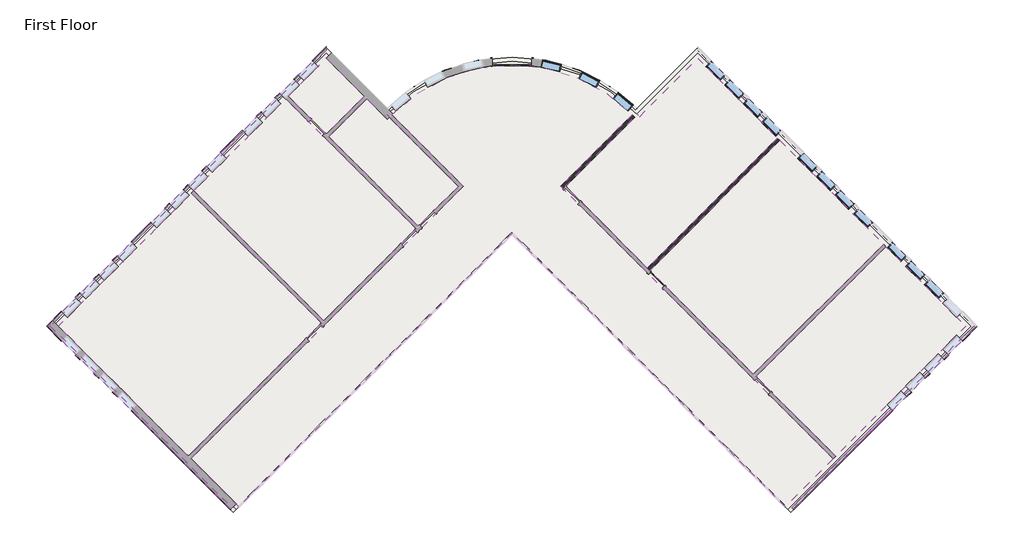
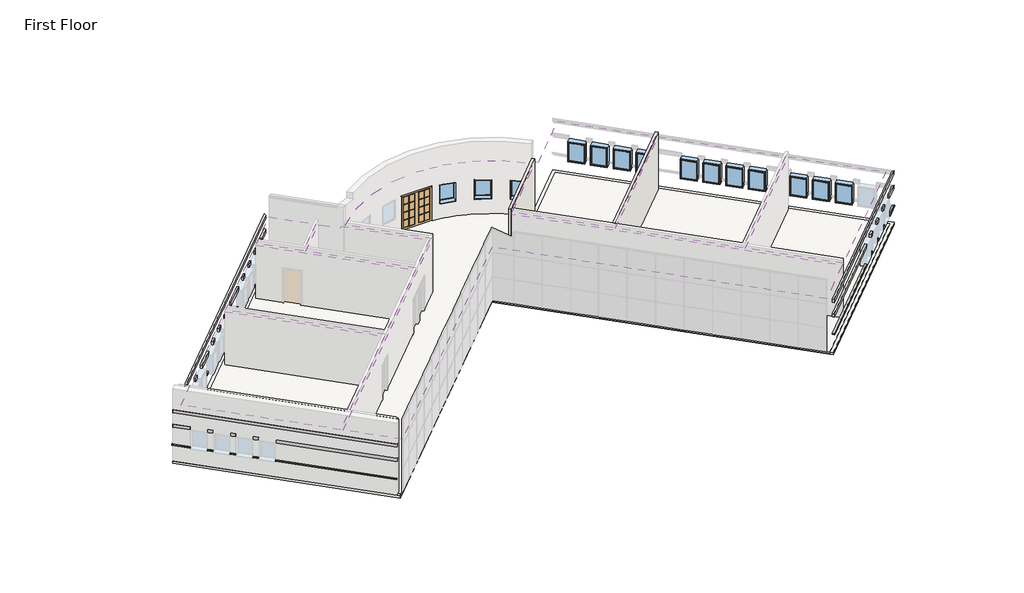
# One storey, part 6 of 7: 14 windows, 9 proxies, 8 coverings, 2 doors, 2 slabs, 2 walls.
"""IFC4 building model written with IfcOpenShell, lengths in millimetres."""

from ifc_helpers import new_model, si_unit, point, frame, frame_2d, origin, origin_with_axes, place, context, project, spatial, polyline, circle_curve, trimmed, segment, composite_curve, outline, extrude, faceted_brep, transform, mapped, element, save
from ifc_brep_helpers import plane_surface, cylinder_surface, advanced_brep
from components import door_0a477ef8, door_5f5b55da, window_15c49d37, window_0e2fc6ce

model = new_model("IFC4")

# Units and contexts
model_context = context("Model", 3, world=origin())
ifc_project = project(units=[si_unit("LENGTHUNIT", "METRE", prefix="MILLI")], contexts=[model_context])

# Site, building, storey
site = spatial("IfcSite", under=ifc_project)
building = spatial("IfcBuilding", under=site)
storey = spatial("IfcBuildingStorey", under=building, Name="First Floor", Elevation=0.0)

# Proxies
placement = place(None, origin())
element("IfcBuildingElementProxy", 1, Name="Wall Sweeps", at=placement, inside=storey, context=model_context, shape_type="Brep", body=[
    faceted_brep([(18554.3726125, -1357.9895101, 1085.85), (18684.5863263, -1357.9895101, 1085.85), (18733.9777349, -1357.9895101, 1041.4), (18733.9777349, -1357.9895101, 1016.0), (18554.3726125, -1357.9895101, 1016.0), (17956.0630484, -1956.2990742, 1085.85), (17956.0630484, -1956.2990742, 1016.0), (18021.1699053, -2021.405931, 1016.0), (18045.8656096, -2046.1016354, 1016.0), (18045.8656096, -2046.1016354, 1041.4), (18021.1699053, -2021.405931, 1085.85), (18370.277362, -1542.0847606, 1085.85), (18370.277362, -1542.0847606, 1016.0)], [[[0, 1, 2, 3, 4]], [[5, 6, 7, 8, 9, 10]], [[1, 0, 11, 5, 10]], [[2, 1, 10, 9]], [[3, 2, 9, 8]], [[4, 3, 8, 7, 6, 12]], [[0, 4, 12, 6, 5, 11]]]),
    faceted_brep([(17309.4846077, -2602.8775149, 1085.85), (17374.5914646, -2667.9843718, 1085.85), (17399.2871689, -2692.6800761, 1041.4), (17399.2871689, -2692.6800761, 1016.0), (17374.5914646, -2667.9843718, 1016.0), (17309.4846077, -2602.8775149, 1016.0), (17093.9584608, -2818.4036618, 1085.85), (17093.9584608, -2818.4036618, 1016.0), (17159.0653177, -2883.5105187, 1016.0), (17183.761022, -2908.206223, 1016.0), (17183.761022, -2908.206223, 1041.4), (17159.0653177, -2883.5105187, 1085.85)], [[[0, 1, 2, 3, 4, 5]], [[6, 7, 8, 9, 10, 11]], [[1, 0, 6, 11]], [[2, 1, 11, 10]], [[3, 2, 10, 9]], [[5, 4, 3, 9, 8, 7]], [[0, 5, 7, 6]]]),
    faceted_brep([(16447.3800201, -3464.9821025, 1085.85), (16512.486877, -3530.0889594, 1085.85), (16537.1825813, -3554.7846637, 1041.4), (16537.1825813, -3554.7846637, 1016.0), (16512.486877, -3530.0889594, 1016.0), (16447.3800201, -3464.9821025, 1016.0), (16231.8538732, -3680.5082494, 1085.85), (16231.8538732, -3680.5082494, 1016.0), (16296.9607301, -3745.6151063, 1016.0), (16321.6564344, -3770.3108106, 1016.0), (16321.6564344, -3770.3108106, 1041.4), (16296.9607301, -3745.6151063, 1085.85)], [[[0, 1, 2, 3, 4, 5]], [[6, 7, 8, 9, 10, 11]], [[1, 0, 6, 11]], [[2, 1, 11, 10]], [[3, 2, 10, 9]], [[5, 4, 3, 9, 8, 7]], [[0, 5, 7, 6]]]),
    faceted_brep([(15585.2754325, -4327.0866901, 1085.85), (15650.3822894, -4392.193547, 1085.85), (15675.0779937, -4416.8892513, 1041.4), (15675.0779937, -4416.8892513, 1016.0), (15650.3822894, -4392.193547, 1016.0), (15585.2754325, -4327.0866901, 1016.0), (15369.7492856, -4542.612837, 1085.85), (15369.7492856, -4542.612837, 1016.0), (15434.8561424, -4607.7196939, 1016.0), (15459.5518468, -4632.4153982, 1016.0), (15459.5518468, -4632.4153982, 1041.4), (15434.8561424, -4607.7196939, 1085.85)], [[[0, 1, 2, 3, 4, 5]], [[6, 7, 8, 9, 10, 11]], [[1, 0, 6, 11]], [[2, 1, 11, 10]], [[3, 2, 10, 9]], [[5, 4, 3, 9, 8, 7]], [[0, 5, 7, 6]]]),
    faceted_brep([(14723.1708449, -5189.1912777, 1085.85), (14788.2777017, -5254.2981346, 1085.85), (14812.9734061, -5278.993839, 1041.4), (14812.9734061, -5278.993839, 1016.0), (14788.2777017, -5254.2981346, 1016.0), (14723.1708449, -5189.1912777, 1016.0), (10123.0346468, -9789.3274758, 1085.85), (10123.0346468, -9789.3274758, 1016.0), (10188.1415037, -9854.4343326, 1016.0), (10212.837208, -9879.130037, 1016.0), (10212.837208, -9879.130037, 1041.4), (10188.1415037, -9854.4343326, 1085.85)], [[[0, 1, 2, 3, 4, 5]], [[6, 7, 8, 9, 10, 11]], [[1, 0, 6, 11]], [[2, 1, 11, 10]], [[3, 2, 10, 9]], [[5, 4, 3, 9, 8, 7]], [[0, 5, 7, 6]]]),
])
element("IfcBuildingElementProxy", 2, Name="Wall Sweeps", at=placement, inside=storey, context=model_context, shape_type="Brep", body=[
    faceted_brep([(18684.5863263, -1357.9895101, 2336.8), (18684.5863263, -1357.9895101, 2133.6), (18554.3726125, -1357.9895101, 2133.6), (18554.3726125, -1357.9895101, 2336.8), (18021.1699053, -2021.405931, 2336.8), (17956.0630484, -1956.2990742, 2336.8), (17956.0630484, -1956.2990742, 2133.6), (18021.1699053, -2021.405931, 2133.6), (18435.3842189, -1607.1916175, 2336.8), (18435.3842189, -1607.1916175, 2133.6), (18370.277362, -1542.0847606, 2133.6), (18370.277362, -1542.0847606, 2336.8)], [[[0, 1, 2, 3]], [[4, 5, 6, 7]], [[1, 0, 8, 4, 7, 9]], [[2, 1, 9, 7, 6, 10]], [[3, 2, 10, 6, 5, 11]], [[0, 3, 11, 5, 4, 8]]]),
    faceted_brep([(17374.5914646, -2667.9843718, 2336.8), (17374.5914646, -2667.9843718, 2133.6), (17309.4846077, -2602.8775149, 2133.6), (17309.4846077, -2602.8775149, 2336.8), (17159.0653177, -2883.5105187, 2336.8), (17093.9584608, -2818.4036618, 2336.8), (17093.9584608, -2818.4036618, 2133.6), (17159.0653177, -2883.5105187, 2133.6)], [[[0, 1, 2, 3]], [[4, 5, 6, 7]], [[1, 0, 4, 7]], [[2, 1, 7, 6]], [[3, 2, 6, 5]], [[0, 3, 5, 4]]]),
    faceted_brep([(16512.486877, -3530.0889594, 2336.8), (16512.486877, -3530.0889594, 2133.6), (16447.3800201, -3464.9821025, 2133.6), (16447.3800201, -3464.9821025, 2336.8), (16296.9607301, -3745.6151063, 2336.8), (16231.8538732, -3680.5082494, 2336.8), (16231.8538732, -3680.5082494, 2133.6), (16296.9607301, -3745.6151063, 2133.6)], [[[0, 1, 2, 3]], [[4, 5, 6, 7]], [[1, 0, 4, 7]], [[2, 1, 7, 6]], [[3, 2, 6, 5]], [[0, 3, 5, 4]]]),
    faceted_brep([(15650.3822894, -4392.193547, 2336.8), (15650.3822894, -4392.193547, 2133.6), (15585.2754325, -4327.0866901, 2133.6), (15585.2754325, -4327.0866901, 2336.8), (15434.8561424, -4607.7196939, 2336.8), (15369.7492856, -4542.612837, 2336.8), (15369.7492856, -4542.612837, 2133.6), (15434.8561424, -4607.7196939, 2133.6)], [[[0, 1, 2, 3]], [[4, 5, 6, 7]], [[1, 0, 4, 7]], [[2, 1, 7, 6]], [[3, 2, 6, 5]], [[0, 3, 5, 4]]]),
    faceted_brep([(14788.2777017, -5254.2981346, 2336.8), (14788.2777017, -5254.2981346, 2133.6), (14723.1708449, -5189.1912777, 2133.6), (14723.1708449, -5189.1912777, 2336.8), (10188.1415037, -9854.4343326, 2336.8), (10123.0346468, -9789.3274758, 2336.8), (10123.0346468, -9789.3274758, 2133.6), (10188.1415037, -9854.4343326, 2133.6)], [[[0, 1, 2, 3]], [[4, 5, 6, 7]], [[1, 0, 4, 7]], [[2, 1, 7, 6]], [[3, 2, 6, 5]], [[0, 3, 5, 4]]]),
])
element("IfcBuildingElementProxy", 3, Name="Wall Sweeps", at=placement, inside=storey, context=model_context, shape_type="Brep", body=[
    faceted_brep([(18684.5863263, -1357.9895101, 3251.2), (18684.5863263, -1357.9895101, 3048.0), (18554.3726125, -1357.9895101, 3048.0), (18554.3726125, -1357.9895101, 3251.2), (10188.1415037, -9854.4343326, 3251.2), (10123.0346468, -9789.3274758, 3251.2), (10123.0346468, -9789.3274758, 3048.0), (10188.1415037, -9854.4343326, 3048.0), (18435.3842189, -1607.1916175, 3251.2), (18435.3842189, -1607.1916175, 3048.0), (18370.277362, -1542.0847606, 3048.0), (18370.277362, -1542.0847606, 3251.2)], [[[0, 1, 2, 3]], [[4, 5, 6, 7]], [[1, 0, 8, 4, 7, 9]], [[2, 1, 9, 7, 6, 10]], [[3, 2, 10, 6, 5, 11]], [[0, 3, 11, 5, 4, 8]]]),
])
element("IfcBuildingElementProxy", 4, Name="Wall Sweeps", at=placement, inside=storey, context=model_context, shape_type="Brep", body=[
    faceted_brep([(-15859.0913754, -9789.3274758, 1085.85), (-15924.1982323, -9854.4343326, 1085.85), (-15948.8939367, -9879.130037, 1041.4), (-15948.8939367, -9879.130037, 1016.0), (-15924.1982323, -9854.4343326, 1016.0), (-15859.0913754, -9789.3274758, 1016.0), (-20459.2275735, -5189.1912777, 1085.85), (-20459.2275735, -5189.1912777, 1016.0), (-20524.3344303, -5254.2981346, 1016.0), (-20549.0301347, -5278.993839, 1016.0), (-20549.0301347, -5278.993839, 1041.4), (-20524.3344303, -5254.2981346, 1085.85)], [[[0, 1, 2, 3, 4, 5]], [[6, 7, 8, 9, 10, 11]], [[1, 0, 6, 11]], [[2, 1, 11, 10]], [[3, 2, 10, 9]], [[5, 4, 3, 9, 8, 7]], [[0, 5, 7, 6]]]),
    faceted_brep([(-21105.8060142, -4542.612837, 1085.85), (-21170.9128711, -4607.7196939, 1085.85), (-21195.6085754, -4632.4153982, 1041.4), (-21195.6085754, -4632.4153982, 1016.0), (-21170.9128711, -4607.7196939, 1016.0), (-21105.8060142, -4542.612837, 1016.0), (-21321.3321611, -4327.0866901, 1085.85), (-21321.3321611, -4327.0866901, 1016.0), (-21386.439018, -4392.193547, 1016.0), (-21411.1347223, -4416.8892513, 1016.0), (-21411.1347223, -4416.8892513, 1041.4), (-21386.439018, -4392.193547, 1085.85)], [[[0, 1, 2, 3, 4, 5]], [[6, 7, 8, 9, 10, 11]], [[1, 0, 6, 11]], [[2, 1, 11, 10]], [[3, 2, 10, 9]], [[5, 4, 3, 9, 8, 7]], [[0, 5, 7, 6]]]),
    faceted_brep([(-21967.9106018, -3680.5082494, 1085.85), (-22033.0174587, -3745.6151063, 1085.85), (-22057.713163, -3770.3108106, 1041.4), (-22057.713163, -3770.3108106, 1016.0), (-22033.0174587, -3745.6151063, 1016.0), (-21967.9106018, -3680.5082494, 1016.0), (-22183.4367487, -3464.9821025, 1085.85), (-22183.4367487, -3464.9821025, 1016.0), (-22248.5436056, -3530.0889594, 1016.0), (-22273.2393099, -3554.7846637, 1016.0), (-22273.2393099, -3554.7846637, 1041.4), (-22248.5436056, -3530.0889594, 1085.85)], [[[0, 1, 2, 3, 4, 5]], [[6, 7, 8, 9, 10, 11]], [[1, 0, 6, 11]], [[2, 1, 11, 10]], [[3, 2, 10, 9]], [[5, 4, 3, 9, 8, 7]], [[0, 5, 7, 6]]]),
    faceted_brep([(-22830.0151894, -2818.4036618, 1085.85), (-22895.1220463, -2883.5105187, 1085.85), (-22919.8177506, -2908.206223, 1041.4), (-22919.8177506, -2908.206223, 1016.0), (-22895.1220463, -2883.5105187, 1016.0), (-22830.0151894, -2818.4036618, 1016.0), (-23045.5413363, -2602.8775149, 1085.85), (-23045.5413363, -2602.8775149, 1016.0), (-23110.6481932, -2667.9843718, 1016.0), (-23135.3438975, -2692.6800761, 1016.0), (-23135.3438975, -2692.6800761, 1041.4), (-23110.6481932, -2667.9843718, 1085.85)], [[[0, 1, 2, 3, 4, 5]], [[6, 7, 8, 9, 10, 11]], [[1, 0, 6, 11]], [[2, 1, 11, 10]], [[3, 2, 10, 9]], [[5, 4, 3, 9, 8, 7]], [[0, 5, 7, 6]]]),
    faceted_brep([(-23692.119777, -1956.2990742, 1085.85), (-23757.2266339, -2021.405931, 1085.85), (-23781.9223383, -2046.1016354, 1041.4), (-23781.9223383, -2046.1016354, 1016.0), (-23757.2266339, -2021.405931, 1016.0), (-23692.119777, -1956.2990742, 1016.0), (-24290.4293411, -1357.9895101, 1085.85), (-24290.4293411, -1357.9895101, 1016.0), (-24470.0344635, -1357.9895101, 1016.0), (-24470.0344635, -1357.9895101, 1041.4), (-24420.6430549, -1357.9895101, 1085.85)], [[[0, 1, 2, 3, 4, 5]], [[6, 7, 8, 9, 10]], [[1, 0, 6, 10]], [[2, 1, 10, 9]], [[3, 2, 9, 8]], [[5, 4, 3, 8, 7]], [[0, 5, 7, 6]]]),
])
element("IfcBuildingElementProxy", 5, Name="Wall Sweeps", at=placement, inside=storey, context=model_context, shape_type="SweptSolid", body=[
    extrude(outline(polyline([(-15859.0913754, -9789.3274758), (-15924.1982323, -9854.4343326), (-20524.3344303, -5254.2981346), (-20459.2275735, -5189.1912777), (-15859.0913754, -9789.3274758)])), frame((0.0, 0.0, 2133.6), z_axis=(0.0, 0.0, 1.0), x_axis=(1.0, 0.0, 0.0)), (0.0, 0.0, 1.0), 203.2),
    extrude(outline(polyline([(-21105.8060142, -4542.612837), (-21170.9128711, -4607.7196939), (-21386.439018, -4392.193547), (-21321.3321611, -4327.0866901), (-21105.8060142, -4542.612837)])), frame((0.0, 0.0, 2133.6), z_axis=(0.0, 0.0, 1.0), x_axis=(1.0, 0.0, 0.0)), (0.0, 0.0, 1.0), 203.2),
    extrude(outline(polyline([(-21967.9106018, -3680.5082494), (-22033.0174587, -3745.6151063), (-22248.5436056, -3530.0889594), (-22183.4367487, -3464.9821025), (-21967.9106018, -3680.5082494)])), frame((0.0, 0.0, 2133.6), z_axis=(0.0, 0.0, 1.0), x_axis=(1.0, 0.0, 0.0)), (0.0, 0.0, 1.0), 203.2),
    extrude(outline(polyline([(-22830.0151894, -2818.4036618), (-22895.1220463, -2883.5105187), (-23110.6481932, -2667.9843718), (-23045.5413363, -2602.8775149), (-22830.0151894, -2818.4036618)])), frame((0.0, 0.0, 2133.6), z_axis=(0.0, 0.0, 1.0), x_axis=(1.0, 0.0, 0.0)), (0.0, 0.0, 1.0), 203.2),
    extrude(outline(polyline([(-23692.119777, -1956.2990742), (-23757.2266339, -2021.405931), (-24420.6430549, -1357.9895101), (-24290.4293411, -1357.9895101), (-23692.119777, -1956.2990742)])), frame((0.0, 0.0, 2133.6), z_axis=(0.0, 0.0, 1.0), x_axis=(1.0, 0.0, 0.0)), (0.0, 0.0, 1.0), 203.2),
])
element("IfcBuildingElementProxy", 6, Name="Wall Sweeps", at=placement, inside=storey, context=model_context, shape_type="SweptSolid", body=[
    extrude(outline(polyline([(-15859.0913754, -9789.3274758), (-15924.1982323, -9854.4343326), (-24420.6430549, -1357.9895101), (-24290.4293411, -1357.9895101), (-15859.0913754, -9789.3274758)])), frame((0.0, 0.0, 3048.0), z_axis=(0.0, 0.0, 1.0), x_axis=(1.0, 0.0, 0.0)), (0.0, 0.0, 1.0), 203.2),
])
element("IfcBuildingElementProxy", 7, Name="Wall Sweeps", at=placement, inside=storey, context=model_context, shape_type="Brep", body=[
    faceted_brep([(-24290.4293411, -1357.9895101, 1085.85), (-24420.6430549, -1357.9895101, 1085.85), (-24470.0344635, -1357.9895101, 1041.4), (-24470.0344635, -1357.9895101, 1016.0), (-24290.4293411, -1357.9895101, 1016.0), (-23692.119777, -759.679946, 1085.85), (-23692.119777, -759.679946, 1016.0), (-23757.2266339, -694.5730891, 1016.0), (-23781.9223383, -669.8773848, 1016.0), (-23781.9223383, -669.8773848, 1041.4), (-23757.2266339, -694.5730891, 1085.85), (-24106.3340906, -1173.8942596, 1085.85), (-24106.3340906, -1173.8942596, 1016.0)], [[[0, 1, 2, 3, 4]], [[5, 6, 7, 8, 9, 10]], [[1, 0, 11, 5, 10]], [[2, 1, 10, 9]], [[3, 2, 9, 8]], [[4, 3, 8, 7, 6, 12]], [[0, 4, 12, 6, 5, 11]]]),
    faceted_brep([(-23045.5413363, -113.1015053, 1085.85), (-23110.6481932, -47.9946484, 1085.85), (-23135.3438975, -23.2989441, 1041.4), (-23135.3438975, -23.2989441, 1016.0), (-23110.6481932, -47.9946484, 1016.0), (-23045.5413363, -113.1015053, 1016.0), (-22830.0151894, 102.4246416, 1085.85), (-22830.0151894, 102.4246416, 1016.0), (-22895.1220463, 167.5314985, 1016.0), (-22919.8177506, 192.2272028, 1016.0), (-22919.8177506, 192.2272028, 1041.4), (-22895.1220463, 167.5314985, 1085.85)], [[[0, 1, 2, 3, 4, 5]], [[6, 7, 8, 9, 10, 11]], [[1, 0, 6, 11]], [[2, 1, 11, 10]], [[3, 2, 10, 9]], [[5, 4, 3, 9, 8, 7]], [[0, 5, 7, 6]]]),
    faceted_brep([(-22183.4367487, 749.0030823, 1085.85), (-22248.5436056, 814.1099392, 1085.85), (-22273.2393099, 838.8056435, 1041.4), (-22273.2393099, 838.8056435, 1016.0), (-22248.5436056, 814.1099392, 1016.0), (-22183.4367487, 749.0030823, 1016.0), (-21967.9106018, 964.5292292, 1085.85), (-21967.9106018, 964.5292292, 1016.0), (-22033.0174587, 1029.6360861, 1016.0), (-22057.713163, 1054.3317904, 1016.0), (-22057.713163, 1054.3317904, 1041.4), (-22033.0174587, 1029.6360861, 1085.85)], [[[0, 1, 2, 3, 4, 5]], [[6, 7, 8, 9, 10, 11]], [[1, 0, 6, 11]], [[2, 1, 11, 10]], [[3, 2, 10, 9]], [[5, 4, 3, 9, 8, 7]], [[0, 5, 7, 6]]]),
    faceted_brep([(-21321.3321611, 1611.1076699, 1085.85), (-21386.439018, 1676.2145268, 1085.85), (-21411.1347223, 1700.9102311, 1041.4), (-21411.1347223, 1700.9102311, 1016.0), (-21386.439018, 1676.2145268, 1016.0), (-21321.3321611, 1611.1076699, 1016.0), (-21105.8060142, 1826.6338168, 1085.85), (-21105.8060142, 1826.6338168, 1016.0), (-21170.9128711, 1891.7406737, 1016.0), (-21195.6085754, 1916.4363781, 1016.0), (-21195.6085754, 1916.4363781, 1041.4), (-21170.9128711, 1891.7406737, 1085.85)], [[[0, 1, 2, 3, 4, 5]], [[6, 7, 8, 9, 10, 11]], [[1, 0, 6, 11]], [[2, 1, 11, 10]], [[3, 2, 10, 9]], [[5, 4, 3, 9, 8, 7]], [[0, 5, 7, 6]]]),
    faceted_brep([(-20459.2275735, 2473.2122576, 1085.85), (-20524.3344303, 2538.3191144, 1085.85), (-20549.0301347, 2563.0148188, 1041.4), (-20549.0301347, 2563.0148188, 1016.0), (-20524.3344303, 2538.3191144, 1016.0), (-20459.2275735, 2473.2122576, 1016.0), (-19543.7128733, 3388.7269578, 1085.85), (-19543.7128733, 3388.7269578, 1016.0), (-19608.8197301, 3453.8338146, 1016.0), (-19633.5154345, 3478.529519, 1016.0), (-19633.5154345, 3478.529519, 1041.4), (-19608.8197301, 3453.8338146, 1085.85)], [[[0, 1, 2, 3, 4, 5]], [[6, 7, 8, 9, 10, 11]], [[1, 0, 6, 11]], [[2, 1, 11, 10]], [[3, 2, 10, 9]], [[5, 4, 3, 9, 8, 7]], [[0, 5, 7, 6]]]),
    faceted_brep([(-18897.1344326, 4035.3053985, 1085.85), (-18962.2412894, 4100.4122553, 1085.85), (-18986.9369938, 4125.1079597, 1041.4), (-18986.9369938, 4125.1079597, 1016.0), (-18962.2412894, 4100.4122553, 1016.0), (-18897.1344326, 4035.3053985, 1016.0), (-18681.6082856, 4250.8315454, 1085.85), (-18681.6082856, 4250.8315454, 1016.0), (-18746.7151425, 4315.9384023, 1016.0), (-18771.4108469, 4340.6341066, 1016.0), (-18771.4108469, 4340.6341066, 1041.4), (-18746.7151425, 4315.9384023, 1085.85)], [[[0, 1, 2, 3, 4, 5]], [[6, 7, 8, 9, 10, 11]], [[1, 0, 6, 11]], [[2, 1, 11, 10]], [[3, 2, 10, 9]], [[5, 4, 3, 9, 8, 7]], [[0, 5, 7, 6]]]),
    faceted_brep([(-18035.0298449, 4897.4099861, 1085.85), (-18100.1367018, 4962.516843, 1085.85), (-18124.8324061, 4987.2125473, 1041.4), (-18124.8324061, 4987.2125473, 1016.0), (-18100.1367018, 4962.516843, 1016.0), (-18035.0298449, 4897.4099861, 1016.0), (-17819.503698, 5112.936133, 1085.85), (-17819.503698, 5112.936133, 1016.0), (-17884.6105549, 5178.0429899, 1016.0), (-17909.3062592, 5202.7386942, 1016.0), (-17909.3062592, 5202.7386942, 1041.4), (-17884.6105549, 5178.0429899, 1085.85)], [[[0, 1, 2, 3, 4, 5]], [[6, 7, 8, 9, 10, 11]], [[1, 0, 6, 11]], [[2, 1, 11, 10]], [[3, 2, 10, 9]], [[5, 4, 3, 9, 8, 7]], [[0, 5, 7, 6]]]),
    faceted_brep([(-17172.9252573, 5759.5145737, 1085.85), (-17238.0321142, 5824.6214306, 1085.85), (-17262.7278185, 5849.3171349, 1041.4), (-17262.7278185, 5849.3171349, 1016.0), (-17238.0321142, 5824.6214306, 1016.0), (-17172.9252573, 5759.5145737, 1016.0), (-16957.3991104, 5975.0407206, 1085.85), (-16957.3991104, 5975.0407206, 1016.0), (-17022.5059673, 6040.1475775, 1016.0), (-17047.2016716, 6064.8432818, 1016.0), (-17047.2016716, 6064.8432818, 1041.4), (-17022.5059673, 6040.1475775, 1085.85)], [[[0, 1, 2, 3, 4, 5]], [[6, 7, 8, 9, 10, 11]], [[1, 0, 6, 11]], [[2, 1, 11, 10]], [[3, 2, 10, 9]], [[5, 4, 3, 9, 8, 7]], [[0, 5, 7, 6]]]),
    faceted_brep([(-16310.8206697, 6621.6191613, 1085.85), (-16375.9275266, 6686.7260182, 1085.85), (-16400.6232309, 6711.4217225, 1041.4), (-16400.6232309, 6711.4217225, 1016.0), (-16375.9275266, 6686.7260182, 1016.0), (-16310.8206697, 6621.6191613, 1016.0), (-15286.3644832, 7646.0753478, 1085.85), (-15286.3644832, 7646.0753478, 1016.0), (-15351.4713401, 7711.1822047, 1016.0), (-15376.1670444, 7735.877909, 1016.0), (-15376.1670444, 7735.877909, 1041.4), (-15351.4713401, 7711.1822047, 1085.85)], [[[0, 1, 2, 3, 4, 5]], [[6, 7, 8, 9, 10, 11]], [[1, 0, 6, 11]], [[2, 1, 11, 10]], [[3, 2, 10, 9]], [[5, 4, 3, 9, 8, 7]], [[0, 5, 7, 6]]]),
    faceted_brep([(-14639.7860425, 8292.6537886, 1085.85), (-14704.8928993, 8357.7606454, 1085.85), (-14729.5886037, 8382.4563498, 1041.4), (-14729.5886037, 8382.4563498, 1016.0), (-14704.8928993, 8357.7606454, 1016.0), (-14639.7860425, 8292.6537886, 1016.0), (-14424.2598956, 8508.1799355, 1085.85), (-14424.2598956, 8508.1799355, 1016.0), (-14489.3667524, 8573.2867923, 1016.0), (-14514.0624568, 8597.9824967, 1016.0), (-14514.0624568, 8597.9824967, 1041.4), (-14489.3667524, 8573.2867923, 1085.85)], [[[0, 1, 2, 3, 4, 5]], [[6, 7, 8, 9, 10, 11]], [[1, 0, 6, 11]], [[2, 1, 11, 10]], [[3, 2, 10, 9]], [[5, 4, 3, 9, 8, 7]], [[0, 5, 7, 6]]]),
    faceted_brep([(-13777.6814548, 9154.7583762, 1085.85), (-13842.7883117, 9219.8652331, 1085.85), (-13867.4840161, 9244.5609374, 1041.4), (-13867.4840161, 9244.5609374, 1016.0), (-13842.7883117, 9219.8652331, 1016.0), (-13777.6814548, 9154.7583762, 1016.0), (-13562.1553079, 9370.2845231, 1085.85), (-13562.1553079, 9370.2845231, 1016.0), (-13627.2621648, 9435.39138, 1016.0), (-13651.9578691, 9460.0870843, 1016.0), (-13651.9578691, 9460.0870843, 1041.4), (-13627.2621648, 9435.39138, 1085.85)], [[[0, 1, 2, 3, 4, 5]], [[6, 7, 8, 9, 10, 11]], [[1, 0, 6, 11]], [[2, 1, 11, 10]], [[3, 2, 10, 9]], [[5, 4, 3, 9, 8, 7]], [[0, 5, 7, 6]]]),
    faceted_brep([(-12915.5768672, 10016.8629638, 1085.85), (-12980.6837241, 10081.9698207, 1085.85), (-13005.3794284, 10106.665525, 1041.4), (-13005.3794284, 10106.665525, 1016.0), (-12980.6837241, 10081.9698207, 1016.0), (-12915.5768672, 10016.8629638, 1016.0), (-12700.0507203, 10232.3891107, 1085.85), (-12700.0507203, 10232.3891107, 1016.0), (-12765.1575772, 10297.4959676, 1016.0), (-12789.8532815, 10322.1916719, 1016.0), (-12789.8532815, 10322.1916719, 1041.4), (-12765.1575772, 10297.4959676, 1085.85)], [[[0, 1, 2, 3, 4, 5]], [[6, 7, 8, 9, 10, 11]], [[1, 0, 6, 11]], [[2, 1, 11, 10]], [[3, 2, 10, 9]], [[5, 4, 3, 9, 8, 7]], [[0, 5, 7, 6]]]),
    faceted_brep([(-12053.4722796, 10878.9675514, 1085.85), (-12118.5791365, 10944.0744083, 1085.85), (-12143.2748408, 10968.7701126, 1041.4), (-12143.2748408, 10968.7701126, 1016.0), (-12118.5791365, 10944.0744083, 1016.0), (-12053.4722796, 10878.9675514, 1016.0), (-11489.0742405, 11443.3655905, 1085.85), (-11489.0742405, 11443.3655905, 1016.0), (-11489.0742405, 11622.9707129, 1016.0), (-11489.0742405, 11622.9707129, 1041.4), (-11489.0742405, 11573.5793042, 1085.85)], [[[0, 1, 2, 3, 4, 5]], [[6, 7, 8, 9, 10]], [[1, 0, 6, 10]], [[2, 1, 10, 9]], [[3, 2, 9, 8]], [[5, 4, 3, 8, 7]], [[0, 5, 7, 6]]]),
])
element("IfcBuildingElementProxy", 8, Name="Wall Sweeps", at=placement, inside=storey, context=model_context, shape_type="Brep", body=[
    faceted_brep([(-24420.6430549, -1357.9895101, 2336.8), (-24420.6430549, -1357.9895101, 2133.6), (-24290.4293411, -1357.9895101, 2133.6), (-24290.4293411, -1357.9895101, 2336.8), (-23757.2266339, -694.5730891, 2336.8), (-23692.119777, -759.679946, 2336.8), (-23692.119777, -759.679946, 2133.6), (-23757.2266339, -694.5730891, 2133.6), (-24171.4409475, -1108.7874027, 2336.8), (-24171.4409475, -1108.7874027, 2133.6), (-24106.3340906, -1173.8942596, 2133.6), (-24106.3340906, -1173.8942596, 2336.8)], [[[0, 1, 2, 3]], [[4, 5, 6, 7]], [[1, 0, 8, 4, 7, 9]], [[2, 1, 9, 7, 6, 10]], [[3, 2, 10, 6, 5, 11]], [[0, 3, 11, 5, 4, 8]]]),
    faceted_brep([(-23110.6481932, -47.9946484, 2336.8), (-23110.6481932, -47.9946484, 2133.6), (-23045.5413363, -113.1015053, 2133.6), (-23045.5413363, -113.1015053, 2336.8), (-22895.1220463, 167.5314985, 2336.8), (-22830.0151894, 102.4246416, 2336.8), (-22830.0151894, 102.4246416, 2133.6), (-22895.1220463, 167.5314985, 2133.6)], [[[0, 1, 2, 3]], [[4, 5, 6, 7]], [[1, 0, 4, 7]], [[2, 1, 7, 6]], [[3, 2, 6, 5]], [[0, 3, 5, 4]]]),
    faceted_brep([(-22248.5436056, 814.1099392, 2336.8), (-22248.5436056, 814.1099392, 2133.6), (-22183.4367487, 749.0030823, 2133.6), (-22183.4367487, 749.0030823, 2336.8), (-22033.0174587, 1029.6360861, 2336.8), (-21967.9106018, 964.5292292, 2336.8), (-21967.9106018, 964.5292292, 2133.6), (-22033.0174587, 1029.6360861, 2133.6)], [[[0, 1, 2, 3]], [[4, 5, 6, 7]], [[1, 0, 4, 7]], [[2, 1, 7, 6]], [[3, 2, 6, 5]], [[0, 3, 5, 4]]]),
    faceted_brep([(-21386.439018, 1676.2145268, 2336.8), (-21386.439018, 1676.2145268, 2133.6), (-21321.3321611, 1611.1076699, 2133.6), (-21321.3321611, 1611.1076699, 2336.8), (-21170.9128711, 1891.7406737, 2336.8), (-21105.8060142, 1826.6338168, 2336.8), (-21105.8060142, 1826.6338168, 2133.6), (-21170.9128711, 1891.7406737, 2133.6)], [[[0, 1, 2, 3]], [[4, 5, 6, 7]], [[1, 0, 4, 7]], [[2, 1, 7, 6]], [[3, 2, 6, 5]], [[0, 3, 5, 4]]]),
    faceted_brep([(-20524.3344303, 2538.3191144, 2336.8), (-20524.3344303, 2538.3191144, 2133.6), (-20459.2275735, 2473.2122576, 2133.6), (-20459.2275735, 2473.2122576, 2336.8), (-19608.8197301, 3453.8338146, 2336.8), (-19543.7128733, 3388.7269578, 2336.8), (-19543.7128733, 3388.7269578, 2133.6), (-19608.8197301, 3453.8338146, 2133.6)], [[[0, 1, 2, 3]], [[4, 5, 6, 7]], [[1, 0, 4, 7]], [[2, 1, 7, 6]], [[3, 2, 6, 5]], [[0, 3, 5, 4]]]),
    faceted_brep([(-18962.2412894, 4100.4122553, 2336.8), (-18962.2412894, 4100.4122553, 2133.6), (-18897.1344326, 4035.3053985, 2133.6), (-18897.1344326, 4035.3053985, 2336.8), (-18746.7151425, 4315.9384023, 2336.8), (-18681.6082856, 4250.8315454, 2336.8), (-18681.6082856, 4250.8315454, 2133.6), (-18746.7151425, 4315.9384023, 2133.6)], [[[0, 1, 2, 3]], [[4, 5, 6, 7]], [[1, 0, 4, 7]], [[2, 1, 7, 6]], [[3, 2, 6, 5]], [[0, 3, 5, 4]]]),
    faceted_brep([(-18100.1367018, 4962.516843, 2336.8), (-18100.1367018, 4962.516843, 2133.6), (-18035.0298449, 4897.4099861, 2133.6), (-18035.0298449, 4897.4099861, 2336.8), (-17884.6105549, 5178.0429899, 2336.8), (-17819.503698, 5112.936133, 2336.8), (-17819.503698, 5112.936133, 2133.6), (-17884.6105549, 5178.0429899, 2133.6)], [[[0, 1, 2, 3]], [[4, 5, 6, 7]], [[1, 0, 4, 7]], [[2, 1, 7, 6]], [[3, 2, 6, 5]], [[0, 3, 5, 4]]]),
    faceted_brep([(-17238.0321142, 5824.6214306, 2336.8), (-17238.0321142, 5824.6214306, 2133.6), (-17172.9252573, 5759.5145737, 2133.6), (-17172.9252573, 5759.5145737, 2336.8), (-17022.5059673, 6040.1475775, 2336.8), (-16957.3991104, 5975.0407206, 2336.8), (-16957.3991104, 5975.0407206, 2133.6), (-17022.5059673, 6040.1475775, 2133.6)], [[[0, 1, 2, 3]], [[4, 5, 6, 7]], [[1, 0, 4, 7]], [[2, 1, 7, 6]], [[3, 2, 6, 5]], [[0, 3, 5, 4]]]),
    faceted_brep([(-16375.9275266, 6686.7260182, 2336.8), (-16375.9275266, 6686.7260182, 2133.6), (-16310.8206697, 6621.6191613, 2133.6), (-16310.8206697, 6621.6191613, 2336.8), (-15351.4713401, 7711.1822047, 2336.8), (-15286.3644832, 7646.0753478, 2336.8), (-15286.3644832, 7646.0753478, 2133.6), (-15351.4713401, 7711.1822047, 2133.6)], [[[0, 1, 2, 3]], [[4, 5, 6, 7]], [[1, 0, 4, 7]], [[2, 1, 7, 6]], [[3, 2, 6, 5]], [[0, 3, 5, 4]]]),
    faceted_brep([(-14704.8928993, 8357.7606454, 2336.8), (-14704.8928993, 8357.7606454, 2133.6), (-14639.7860425, 8292.6537886, 2133.6), (-14639.7860425, 8292.6537886, 2336.8), (-14489.3667524, 8573.2867923, 2336.8), (-14424.2598956, 8508.1799355, 2336.8), (-14424.2598956, 8508.1799355, 2133.6), (-14489.3667524, 8573.2867923, 2133.6)], [[[0, 1, 2, 3]], [[4, 5, 6, 7]], [[1, 0, 4, 7]], [[2, 1, 7, 6]], [[3, 2, 6, 5]], [[0, 3, 5, 4]]]),
    faceted_brep([(-13842.7883117, 9219.8652331, 2336.8), (-13842.7883117, 9219.8652331, 2133.6), (-13777.6814548, 9154.7583762, 2133.6), (-13777.6814548, 9154.7583762, 2336.8), (-13627.2621648, 9435.39138, 2336.8), (-13562.1553079, 9370.2845231, 2336.8), (-13562.1553079, 9370.2845231, 2133.6), (-13627.2621648, 9435.39138, 2133.6)], [[[0, 1, 2, 3]], [[4, 5, 6, 7]], [[1, 0, 4, 7]], [[2, 1, 7, 6]], [[3, 2, 6, 5]], [[0, 3, 5, 4]]]),
    faceted_brep([(-12980.6837241, 10081.9698207, 2336.8), (-12980.6837241, 10081.9698207, 2133.6), (-12915.5768672, 10016.8629638, 2133.6), (-12915.5768672, 10016.8629638, 2336.8), (-12765.1575772, 10297.4959676, 2336.8), (-12700.0507203, 10232.3891107, 2336.8), (-12700.0507203, 10232.3891107, 2133.6), (-12765.1575772, 10297.4959676, 2133.6)], [[[0, 1, 2, 3]], [[4, 5, 6, 7]], [[1, 0, 4, 7]], [[2, 1, 7, 6]], [[3, 2, 6, 5]], [[0, 3, 5, 4]]]),
    faceted_brep([(-12118.5791365, 10944.0744083, 2336.8), (-12118.5791365, 10944.0744083, 2133.6), (-12053.4722796, 10878.9675514, 2133.6), (-12053.4722796, 10878.9675514, 2336.8), (-11489.0742405, 11573.5793042, 2336.8), (-11489.0742405, 11443.3655905, 2336.8), (-11489.0742405, 11443.3655905, 2133.6), (-11489.0742405, 11573.5793042, 2133.6)], [[[0, 1, 2, 3]], [[4, 5, 6, 7]], [[1, 0, 4, 7]], [[2, 1, 7, 6]], [[3, 2, 6, 5]], [[0, 3, 5, 4]]]),
])
element("IfcBuildingElementProxy", 9, Name="Wall Sweeps", at=placement, inside=storey, context=model_context, shape_type="Brep", body=[
    faceted_brep([(-24420.6430549, -1357.9895101, 3251.2), (-24420.6430549, -1357.9895101, 3048.0), (-24290.4293411, -1357.9895101, 3048.0), (-24290.4293411, -1357.9895101, 3251.2), (-11489.0742405, 11573.5793042, 3251.2), (-11489.0742405, 11443.3655905, 3251.2), (-11489.0742405, 11443.3655905, 3048.0), (-11489.0742405, 11573.5793042, 3048.0), (-24171.4409475, -1108.7874027, 3251.2), (-24171.4409475, -1108.7874027, 3048.0), (-24106.3340906, -1173.8942596, 3048.0), (-24106.3340906, -1173.8942596, 3251.2)], [[[0, 1, 2, 3]], [[4, 5, 6, 7]], [[1, 0, 8, 4, 7, 9]], [[2, 1, 9, 7, 6, 10]], [[3, 2, 10, 6, 5, 11]], [[0, 3, 11, 5, 4, 8]]]),
])

# Coverings
element("IfcCovering", 10, ObjectType="2' x 2' ACT System", at=placement, inside=storey, context=model_context, shape_type="SweptSolid", body=[
    extrude(outline(polyline([(-11706.7276692, -1216.4326939), (-17885.2616628, -7394.9666875), (-23922.2388402, -1357.9895101), (-17743.7048466, 4820.5444835), (-11706.7276692, -1216.4326939)])), frame((0.0, 0.0, 3352.8), z_axis=(0.0, 0.0, 1.0), x_axis=(1.0, 0.0, 0.0)), (0.0, 0.0, 1.0), 57.15),
])
element("IfcCovering", 11, ObjectType="2' x 2' ACT System", at=placement, inside=storey, context=model_context, shape_type="SweptSolid", body=[
    extrude(outline(polyline([(-17633.6967091, 4930.552621), (-13359.2125777, 9205.0367523), (-7322.2354004, 3168.0595749), (-11596.7195317, -1106.4245564), (-17633.6967091, 4930.552621)])), frame((0.0, 0.0, 3352.8), z_axis=(0.0, 0.0, 1.0), x_axis=(1.0, 0.0, 0.0)), (0.0, 0.0, 1.0), 57.15),
])
element("IfcCovering", 12, ObjectType="2' x 2' ACT System", at=placement, inside=storey, context=model_context, shape_type="SweptSolid", body=[
    extrude(outline(polyline([(-11379.066103, 7444.9065526), (-9618.9359033, 9205.0367523), (-8786.2632499, 8372.3640989), (-8682.75474, 8475.8726089), (-5348.5885532, 5141.7064221), (-7212.2272629, 3278.0677124), (-11379.066103, 7444.9065526)])), frame((0.0, 0.0, 3352.8), z_axis=(0.0, 0.0, 1.0), x_axis=(1.0, 0.0, 0.0)), (0.0, 0.0, 1.0), 57.15),
])
element("IfcCovering", 13, ObjectType="2' x 2' ACT System", at=placement, inside=storey, context=model_context, shape_type="SweptSolid", body=[
    extrude(outline(polyline([(-13249.2044403, 9315.0448898), (-11489.0742405, 11075.1750895), (-9728.9440408, 9315.0448898), (-11489.0742405, 7554.9146901), (-13249.2044403, 9315.0448898)])), frame((0.0, 0.0, 3352.8), z_axis=(0.0, 0.0, 1.0), x_axis=(1.0, 0.0, 0.0)), (0.0, 0.0, 1.0), 57.15),
])
element("IfcCovering", 14, ObjectType="2' x 2' ACT System", at=placement, inside=storey, context=model_context, shape_type="SweptSolid", body=[
    extrude(outline(composite_curve([segment(polyline([(-607.4844504, 5141.7064221), (12039.1967967, -7504.974825), (9814.3383427, -9729.833279), (-2868.0283643, 2952.533428), (-15550.3950713, -9729.833279), (-17775.2535253, -7504.974825), (-5128.5722782, 5141.7064221), (-8449.0111375, 8462.1452813)]), True, "CONTINUOUS"), segment(trimmed(circle_curve(frame_2d((-2868.0283643, 2903.1420194)), 7877.175), [point((-8449.0111375, 8462.1452813))], [point((2712.9544089, 8462.1452813))], False, "CARTESIAN"), True, "CONTINUOUS"), segment(polyline([(2712.9544089, 8462.1452813), (-607.4844504, 5141.7064221)]), True, "CONTINUOUS")], self_intersect=False)), frame((0.0, 0.0, 3352.8), z_axis=(0.0, 0.0, 1.0), x_axis=(1.0, 0.0, 0.0)), (0.0, 0.0, 1.0), 57.15),
])
element("IfcCovering", 15, ObjectType="2' x 2' ACT System", at=placement, inside=storey, context=model_context, shape_type="SweptSolid", body=[
    extrude(outline(polyline([(2946.6980114, 8475.8726089), (3050.2065213, 8372.3640989), (5753.0175119, 11075.1750895), (9452.8830338, 7375.3095676), (3415.9058564, 1338.3323903), (-387.4681754, 5141.7064221), (2946.6980114, 8475.8726089)])), frame((0.0, 0.0, 3352.8), z_axis=(0.0, 0.0, 1.0), x_axis=(1.0, 0.0, 0.0)), (0.0, 0.0, 1.0), 57.15),
])
element("IfcCovering", 16, ObjectType="2' x 2' ACT System", at=placement, inside=storey, context=model_context, shape_type="SweptSolid", body=[
    extrude(outline(polyline([(3525.9139939, 1228.3242528), (9562.8911713, 7265.3014302), (14376.3084522, 2451.8841493), (8339.3312748, -3585.0930281), (3525.9139939, 1228.3242528)])), frame((0.0, 0.0, 3352.8), z_axis=(0.0, 0.0, 1.0), x_axis=(1.0, 0.0, 0.0)), (0.0, 0.0, 1.0), 57.15),
])
element("IfcCovering", 17, ObjectType="2' x 2' ACT System", at=placement, inside=storey, context=model_context, shape_type="SweptSolid", body=[
    extrude(outline(polyline([(8449.3394123, -3695.1011656), (14486.3165897, 2341.8760118), (18186.1821115, -1357.9895101), (12149.2049342, -7394.9666875), (8449.3394123, -3695.1011656)])), frame((0.0, 0.0, 3352.8), z_axis=(0.0, 0.0, 1.0), x_axis=(1.0, 0.0, 0.0)), (0.0, 0.0, 1.0), 57.15),
])

# Doors
door_shape = door_0a477ef8(model_context)
element("IfcDoor", 18, ObjectType="Double-Glass 2 : 72\" x 84\"", at=placement, inside=storey, context=model_context, shape_type="MappedRepresentation", body=[
    mapped(door_shape, transform((-2868.7603243, 10905.5717204, 0.0), x_axis=(-0.9999999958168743, -9.146721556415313e-05, 0.0), y_axis=(9.146721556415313e-05, -0.9999999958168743, 0.0), z_axis=(0.0, 0.0, 1.0))),
])
door_2_shape = door_5f5b55da(model_context)
element("IfcDoor", 19, ObjectType="Single-Glass 1 : 36\" x 84\"", at=placement, inside=storey, context=model_context, shape_type="MappedRepresentation", body=[
    mapped(door_2_shape, transform((3846.9581502, 797.271959, 0.0), x_axis=(-0.7071067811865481, 0.7071067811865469, 0.0), y_axis=(-0.7071067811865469, -0.7071067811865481, 0.0), z_axis=(0.0, 0.0, 1.0))),
])

# Slabs
element("IfcSlab", 20, ObjectType="4\" Concrete Slab", at=placement, inside=storey, context=model_context, shape_type="SweptSolid", body=[
    extrude(outline(composite_curve([segment(polyline([(-11489.0742405, 11308.6617487), (-8661.5174871, 8481.1049952)]), True, "CONTINUOUS"), segment(trimmed(circle_curve(frame_2d((-2868.0283643, 2903.1420194)), 8042.275), [point((-8661.5174871, 8481.1049952))], [point((2925.4607585, 8481.1049952))], False, "CARTESIAN"), True, "CONTINUOUS"), segment(polyline([(2925.4607585, 8481.1049952), (5753.0175119, 11308.6617487), (18419.6687707, -1357.9895101), (9931.0816722, -9846.5766085), (-2868.0283643, 2952.533428), (-15667.1384009, -9846.5766085), (-24155.7254993, -1357.9895101), (-11489.0742405, 11308.6617487)]), True, "CONTINUOUS")], self_intersect=False)), frame((0.0, 0.0, -101.6), z_axis=(0.0, 0.0, 1.0), x_axis=(1.0, 0.0, 0.0)), (0.0, 0.0, 1.0), 101.6),
])
element("IfcSlab", 21, ObjectType="LW Concrete on Metal Deck", at=placement, inside=storey, context=model_context, shape_type="SweptSolid", body=[
    extrude(outline(composite_curve([segment(polyline([(-11489.0742405, 11573.5793042), (-8662.486224, 8746.9912878)]), True, "CONTINUOUS"), segment(trimmed(circle_curve(frame_2d((-2868.0283643, 2903.1420194)), 8229.6), [point((-8662.486224, 8746.9912878))], [point((2926.4294954, 8746.9912878))], False, "CARTESIAN"), True, "CONTINUOUS"), segment(polyline([(2926.4294954, 8746.9912878), (5753.0175119, 11573.5793042), (18684.5863263, -1357.9895101), (10063.54045, -9979.0353863), (-2868.0283643, 2952.533428), (-15799.5971786, -9979.0353863), (-24420.6430549, -1357.9895101), (-11489.0742405, 11573.5793042)]), True, "CONTINUOUS")], self_intersect=False)), frame((0.0, 0.0, -139.7), z_axis=(0.0, 0.0, 1.0), x_axis=(1.0, 0.0, 0.0)), (0.0, 0.0, 1.0), 139.7),
])

# Walls
element("IfcWall", 22, ObjectType="Interior - 6 1/8\" Partition (2-hr)", at=placement, inside=storey, context=model_context, shape_type="AdvancedBrep", body=[
    advanced_brep(
    [(-497.4763129, 5031.6982846, 0.0), (-387.4681754, 5141.7064221, 0.0), (2821.6590066, 8350.8336041, 0.0), (2821.6590066, 8350.8336041, 3657.6), (-387.4681754, 5141.7064221, 3657.6), (-497.4763129, 5031.6982846, 3657.6), (-607.4844504, 5141.7064221, 0.0), (-607.4844504, 5141.7064221, 3657.6), (2712.9544089, 8462.1452813, 3657.6), (2712.9544089, 8462.1452813, 0.0)],
    [
        (0, 1),
        (1, 2),
        (2, 3),
        (3, 4),
        (4, 5),
        (5, 0),
        (6, 7),
        (7, 8),
        (8, 9),
        (9, 6),
        (0, 6),
        (9, 2, circle_curve(frame((-2868.0283643, 2903.1420194, 0.0), z_axis=(0.0, 0.0, -1.0), x_axis=(1.0, 0.0, 0.0)), 7877.175)),
        (3, 8, circle_curve(frame((-2868.0283643, 2903.1420194, 3657.6), z_axis=(0.0, 0.0, 1.0), x_axis=(1.0, 0.0, 0.0)), 7877.175)),
        (7, 5),
    ],
    [
        plane_surface(frame((-442.4722441, 5086.7023533, 0.0), z_axis=(0.7071067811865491, -0.7071067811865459, 0.0), x_axis=(0.7071067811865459, 0.7071067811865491, 0.0))),
        plane_surface(frame((-552.4803816, 5196.7104908, 0.0), z_axis=(-0.7071067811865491, 0.7071067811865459, 0.0), x_axis=(-0.7071067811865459, -0.7071067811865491, 0.0))),
        plane_surface(frame((-442.4722441, 5086.7023533, 0.0), z_axis=(0.0, 0.0, -1.0), x_axis=(-0.707106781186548, 0.7071067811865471, 0.0))),
        plane_surface(frame((2947.192033, 8476.3666305, 3657.6), z_axis=(0.0, 0.0, 1.0000000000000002), x_axis=(-0.7071067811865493, 0.7071067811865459, 0.0))),
        plane_surface(frame((12163.7978503, -7629.5758786, 0.0), z_axis=(-0.7071067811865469, -0.7071067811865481, 0.0), x_axis=(0.7071067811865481, -0.7071067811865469, 0.0))),
        cylinder_surface(frame((-2868.0283643, 2903.1420194, 0.0), z_axis=(0.0, 0.0, -1.0), x_axis=(1.0, 0.0, 0.0)), 7877.175),
    ],
    [
        (0, [[1, 2, 3, 4, 5, 6]]),
        (1, [[7, 8, 9, 10]]),
        (2, [[-2, -1, 11, -10, 12]]),
        (3, [[-5, -4, 13, -8, 14]]),
        (4, [[-6, -14, -7, -11]]),
        (5, [[-3, -12, -9, -13]]),
    ],
),
])
element("IfcWall", 23, ObjectType="Interior - 6 1/8\" Partition (2-hr)", at=placement, inside=storey, context=model_context, shape_type="SweptSolid", body=[
    extrude(outline(polyline([(3415.9058564, 1338.3323903), (9452.8830338, 7375.3095676), (9562.8911713, 7265.3014302), (3525.9139939, 1228.3242528), (3415.9058564, 1338.3323903)])), origin_with_axes(), (0.0, 0.0, 1.0), 3657.6),
])

# Windows
window_shape = window_15c49d37(model_context)
element("IfcWindow", 24, ObjectType="Fixed : 36\" x 48\"", at=placement, inside=storey, context=model_context, shape_type="MappedRepresentation", body=[
    mapped(window_shape, transform((6554.2698062, 10523.1249026, 0.0), x_axis=(-0.7071067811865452, 0.7071067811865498, 0.0), y_axis=(-0.7071067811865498, -0.7071067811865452, 0.0), z_axis=(0.0, 0.0, 1.0))),
])
element("IfcWindow", 25, ObjectType="Fixed : 36\" x 48\"", at=placement, inside=storey, context=model_context, shape_type="MappedRepresentation", body=[
    mapped(window_shape, transform((7416.3743938, 9661.020315, 0.0), x_axis=(-0.7071067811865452, 0.7071067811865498, 0.0), y_axis=(-0.7071067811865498, -0.7071067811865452, 0.0), z_axis=(0.0, 0.0, 1.0))),
])
element("IfcWindow", 26, ObjectType="Fixed : 36\" x 48\"", at=placement, inside=storey, context=model_context, shape_type="MappedRepresentation", body=[
    mapped(window_shape, transform((8278.4789814, 8798.9157274, 0.0), x_axis=(-0.7071067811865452, 0.7071067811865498, 0.0), y_axis=(-0.7071067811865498, -0.7071067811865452, 0.0), z_axis=(0.0, 0.0, 1.0))),
])
element("IfcWindow", 27, ObjectType="Fixed : 36\" x 48\"", at=placement, inside=storey, context=model_context, shape_type="MappedRepresentation", body=[
    mapped(window_shape, transform((9140.583569, 7936.8111398, 0.0), x_axis=(-0.7071067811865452, 0.7071067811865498, 0.0), y_axis=(-0.7071067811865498, -0.7071067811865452, 0.0), z_axis=(0.0, 0.0, 1.0))),
])
window_2_shape = window_0e2fc6ce(model_context)
element("IfcWindow", 28, ObjectType="Fixed : 36\" x 48\"", at=placement, inside=storey, context=model_context, shape_type="MappedRepresentation", body=[
    mapped(window_2_shape, transform((2271.4327875, 9086.2422995, 0.0), x_axis=(-0.765985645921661, 0.642857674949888, 0.0), y_axis=(-0.642857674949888, -0.765985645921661, 0.0), z_axis=(0.0, 0.0, 1.0))),
])
element("IfcWindow", 29, ObjectType="Fixed : 36\" x 48\"", at=placement, inside=storey, context=model_context, shape_type="MappedRepresentation", body=[
    mapped(window_2_shape, transform((-1095.8037333, 10745.5912454, 0.0), x_axis=(-0.9743494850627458, 0.2250401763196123, 0.0), y_axis=(-0.2250401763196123, -0.9743494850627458, 0.0), z_axis=(0.0, 0.0, 1.0))),
])
element("IfcWindow", 30, ObjectType="Fixed : 36\" x 48\"", at=placement, inside=storey, context=model_context, shape_type="MappedRepresentation", body=[
    mapped(window_2_shape, transform((686.0129721, 10115.1861252, 0.0), x_axis=(-0.8948935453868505, 0.44627966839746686, 0.0), y_axis=(-0.44627966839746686, -0.8948935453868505, 0.0), z_axis=(0.0, 0.0, 1.0))),
])
element("IfcWindow", 31, ObjectType="Fixed : 36\" x 48\"", at=placement, inside=storey, context=model_context, shape_type="MappedRepresentation", body=[
    mapped(window_2_shape, transform((16738.115812, 339.2788968, 0.0), x_axis=(0.7071067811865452, -0.7071067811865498, 0.0), y_axis=(0.7071067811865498, 0.7071067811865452, 0.0), z_axis=(0.0, 0.0, 1.0))),
])
element("IfcWindow", 32, ObjectType="Fixed : 36\" x 48\"", at=placement, inside=storey, context=model_context, shape_type="MappedRepresentation", body=[
    mapped(window_2_shape, transform((15876.0112244, 1201.3834844, 0.0), x_axis=(0.7071067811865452, -0.7071067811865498, 0.0), y_axis=(0.7071067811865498, 0.7071067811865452, 0.0), z_axis=(0.0, 0.0, 1.0))),
])
element("IfcWindow", 33, ObjectType="Fixed : 36\" x 48\"", at=placement, inside=storey, context=model_context, shape_type="MappedRepresentation", body=[
    mapped(window_2_shape, transform((15013.9066368, 2063.488072, 0.0), x_axis=(0.7071067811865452, -0.7071067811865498, 0.0), y_axis=(0.7071067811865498, 0.7071067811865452, 0.0), z_axis=(0.0, 0.0, 1.0))),
])
element("IfcWindow", 34, ObjectType="Fixed : 36\" x 48\"", at=placement, inside=storey, context=model_context, shape_type="MappedRepresentation", body=[
    mapped(window_2_shape, transform((13451.8134959, 3625.5812129, 0.0), x_axis=(0.7071067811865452, -0.7071067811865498, 0.0), y_axis=(0.7071067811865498, 0.7071067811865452, 0.0), z_axis=(0.0, 0.0, 1.0))),
])
element("IfcWindow", 35, ObjectType="Fixed : 36\" x 48\"", at=placement, inside=storey, context=model_context, shape_type="MappedRepresentation", body=[
    mapped(window_2_shape, transform((12589.7089082, 4487.6858006, 0.0), x_axis=(0.7071067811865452, -0.7071067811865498, 0.0), y_axis=(0.7071067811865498, 0.7071067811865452, 0.0), z_axis=(0.0, 0.0, 1.0))),
])
element("IfcWindow", 36, ObjectType="Fixed : 36\" x 48\"", at=placement, inside=storey, context=model_context, shape_type="MappedRepresentation", body=[
    mapped(window_2_shape, transform((11727.6043206, 5349.7903882, 0.0), x_axis=(0.7071067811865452, -0.7071067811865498, 0.0), y_axis=(0.7071067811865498, 0.7071067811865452, 0.0), z_axis=(0.0, 0.0, 1.0))),
])
element("IfcWindow", 37, ObjectType="Fixed : 36\" x 48\"", at=placement, inside=storey, context=model_context, shape_type="MappedRepresentation", body=[
    mapped(window_2_shape, transform((10865.499733, 6211.8949758, 0.0), x_axis=(0.7071067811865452, -0.7071067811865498, 0.0), y_axis=(0.7071067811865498, 0.7071067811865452, 0.0), z_axis=(0.0, 0.0, 1.0))),
])

save(model, "model.ifc")
